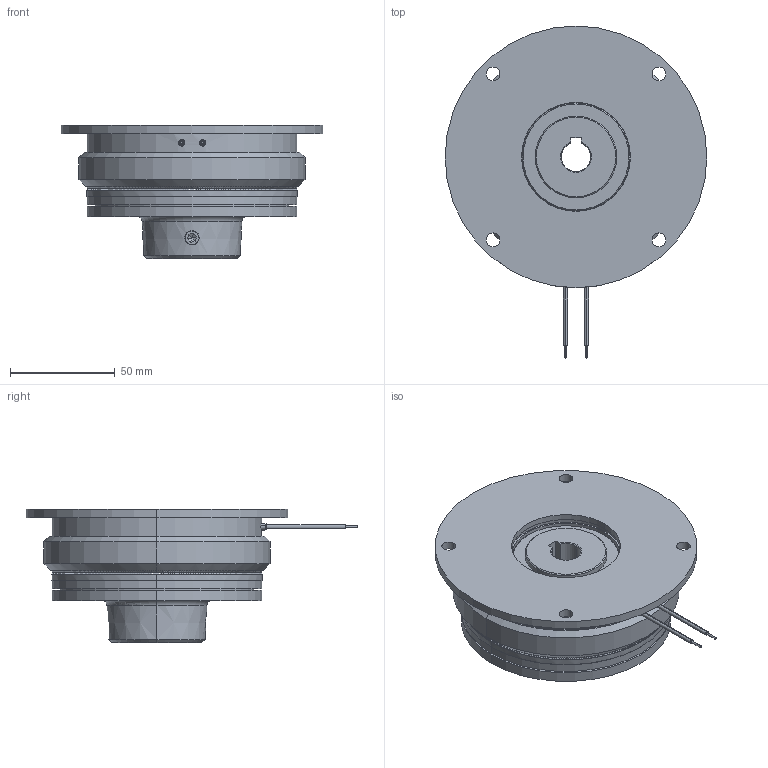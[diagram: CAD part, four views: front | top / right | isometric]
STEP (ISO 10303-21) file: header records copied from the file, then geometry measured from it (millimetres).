
FILE_DESCRIPTION (( 'STEP AP214' ), '1' );
FILE_NAME ('dr_bk_0807-130_mu.STEP', '2021-11-19T07:43:36', ( '' ), ( '' ), 'SwSTEP 2.0', 'SolidWorks 2019', '' );
FILE_SCHEMA (( 'AUTOMOTIVE_DESIGN' ));
Length unit declared in the file: millimetre
Products named in the file (10): 10068825_000; 10068819_000_Einbaul„nge 3,85; 10069219_000_Kundenmodell; 10069212_000_Kundenmodell; 10069175_000; dr_bk_0807-130_mu; 10069161_000_M 8 x 10; 10068820_000; 10069222_000_Kundenmodell; 10068821_000
Assembly tree (19 placements, depth 3):
  dr_bk_0807-130_mu
    10069175_000
    10069222_000_Kundenmodell
    10069212_000_Kundenmodell
      10068825_000
      10069219_000_Kundenmodell
      10068821_000
      10068819_000_Einbaul„nge 3,85  x6
      10068820_000  x6
      10069161_000_M 8 x 10
Bounding box: 125 x 158.5 x 63.75 mm (x, y, z)
Volume: 359127.2 mm3; surface area: 112525 mm2
Topology: 20 solids, 20 shells, 3532 faces, 8815 edges, 5340 vertices
Faces by surface type: plane 2331, cone 829, cylinder 178, bspline 135, torus 47, sphere 12
Entity records: 111568 total; most frequent: CARTESIAN_POINT 34893, ORIENTED_EDGE 17094, DIRECTION 13658, EDGE_CURVE 8547, VERTEX_POINT 5190, AXIS2_PLACEMENT_3D 5128, EDGE_LOOP 3499, ADVANCED_FACE 3407
